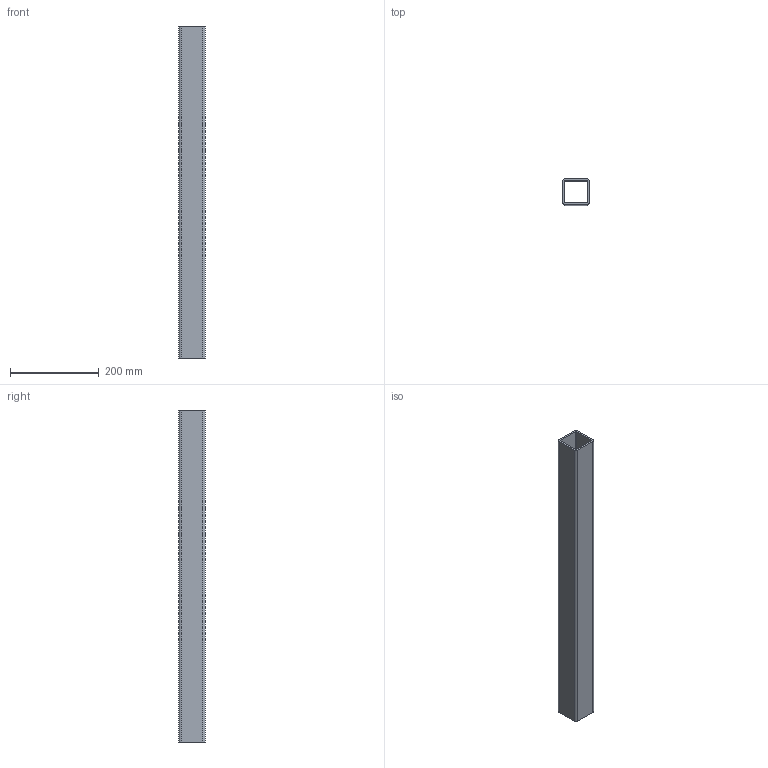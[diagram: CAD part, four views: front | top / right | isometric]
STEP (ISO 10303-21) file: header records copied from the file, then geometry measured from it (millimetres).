
FILE_DESCRIPTION((''),'2;1');
FILE_NAME('9526041000_ASM','2024-11-26T13:25:42',('Stephanie.Hoppe'),(''),'CREO PARAMETRIC BY PTC INC, 2022124','CREO PARAMETRIC BY PTC INC, 2022124','');
FILE_SCHEMA(('AUTOMOTIVE_DESIGN { 1 0 10303 214 1 1 1 1 }'));
Length unit declared in the file: millimetre
Products named in the file (2): 9207002000_AF2; 9526041000_ASM
Assembly tree (1 placements, depth 2):
  9526041000_ASM
    9207002000_AF2
Bounding box: 60 x 60 x 750 mm (x, y, z)
Volume: 802466.8 mm3; surface area: 323126.6 mm2
Topology: 1 solids, 1 shells, 18 faces, 56 edges, 48 vertices
Faces by surface type: plane 10, cylinder 8
Entity records: 1869 total; most frequent: DIRECTION 172, CARTESIAN_POINT 150, COLOUR_RGB 144, PROPERTY_DEFINITION 112, REPRESENTATION 111, PROPERTY_DEFINITION_REPRESENTATION 111, DESCRIPTIVE_REPRESENTATION_ITEM 99, GENERAL_PROPERTY 97
